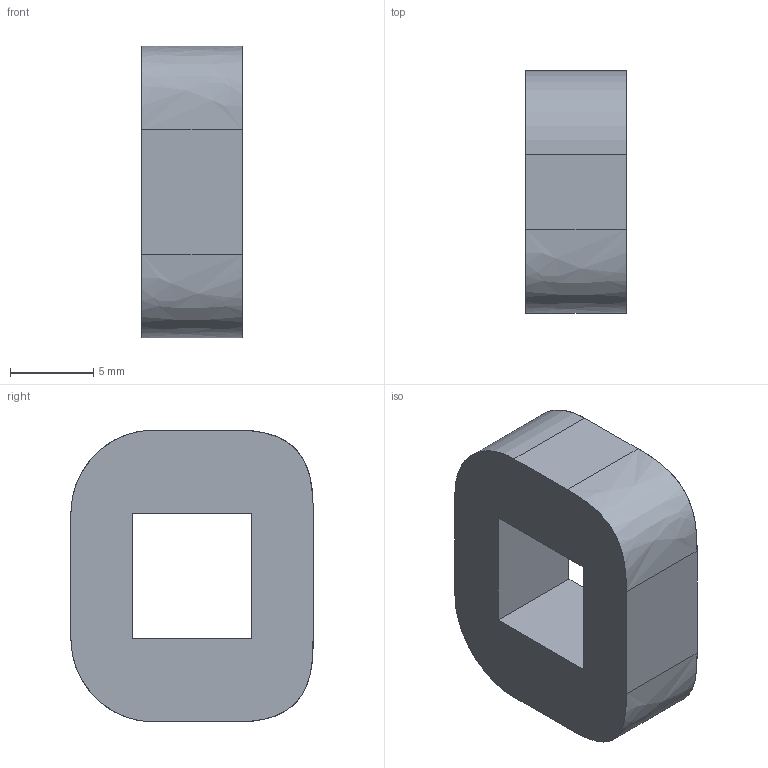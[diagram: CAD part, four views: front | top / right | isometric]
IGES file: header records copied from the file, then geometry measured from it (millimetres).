
Start section: SolidWorks IGES file using analytic representation for surfaces
Global section: file name: C:\Documents and Settings\Administrator\Desktop\coreXY\CoreXY EVT1\20110623\YankerTensioner_TENSIONDONUT2_rev1.IGS; native system: SolidWorks 2009; preprocessor: SolidWorks 2009; author: Administrator; date: 120423.190302; units: millimetre
Bounding box: 6 x 14.52 x 17.5 mm (x, y, z)
Surface area: 880.4 mm2 (no closed solid volume)
Topology: 0 solids, 0 shells, 14 faces, 128 edges, 128 vertices
Faces by surface type: bspline 12, revolution 2
